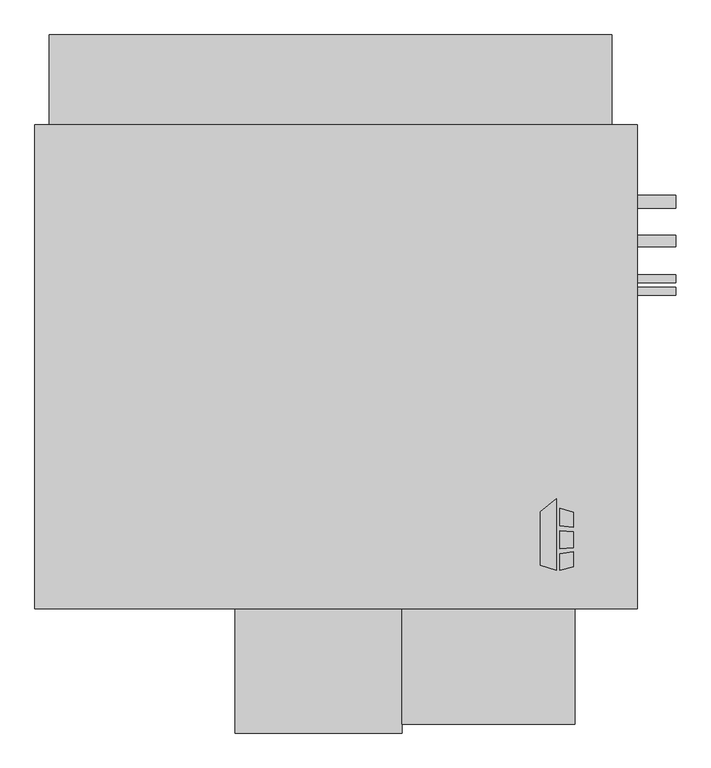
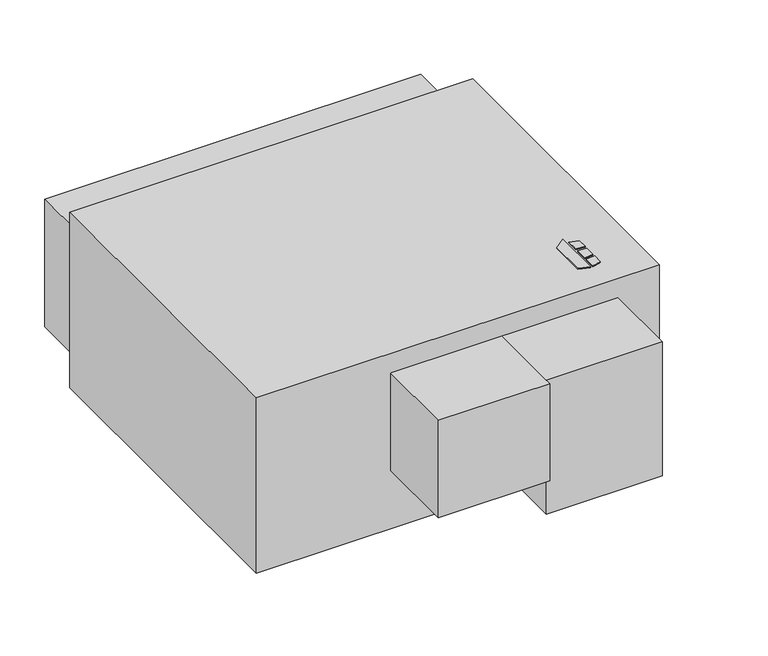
"""IFC4 building model written with IfcOpenShell, lengths in millimetres: proxy geometry, Horizontal_Direct_Drive_Blower_Coil_Unit_-_HDY_-_IEC_-_4-Pipe_RH_2022 : Size 16 - 460v/60Hz/3Ph - 6/2 Coil."""

from ifc_helpers import new_model, si_unit, point, frame, frame_2d, origin, origin_with_axes, place, context, project, spatial, polyline, circle_curve, trimmed, segment, composite_curve, outline, extrude, source, transform, mapped, element, save


def mechanical_equipment_002d5dee(model_context):
    return source(origin(), model_context, "Body", "SweptSolid", [
        extrude(outline(polyline([(-65.3980239, -274.0078476), (-32.8397272, -248.5705184), (-32.8397272, -390.525), (-65.3980239, -380.3054201), (-65.3980239, -274.0078476)])), origin_with_axes(), (0.0, 0.0, 1.0), 3.175),
        extrude(outline(polyline([(-26.0813942, -301.879852), (-26.0813942, -267.3999379), (0.0, -275.5865115), (0.0, -305.0822446), (-26.0813942, -301.879852)])), origin_with_axes(), (0.0, 0.0, 1.0), 3.175),
        extrude(outline(polyline([(0.0, -383.5365115), (-26.0813942, -390.525), (-26.0813942, -357.3036996), (0.0, -353.7618564), (0.0, -383.5365115)])), origin_with_axes(), (0.0, 0.0, 1.0), 3.175),
        extrude(outline(polyline([(0.0, -314.1638277), (0.0, -345.413983), (-26.0813942, -348.155248), (-26.0813942, -312.2975378), (0.0, -314.1638277)])), origin_with_axes(), (0.0, 0.0, 1.0), 3.175),
        extrude(outline(polyline([(127.0, 492.125), (127.0, -466.725), (-1066.8, -466.725), (-1066.8, 492.125), (127.0, 492.125)])), frame((0.0, 0.0, -549.2558174), z_axis=(0.0, 0.0, 1.0), x_axis=(1.0, 0.0, 0.0)), (0.0, 0.0, 1.0), 549.2558174),
        extrude(outline(polyline([(3.175, -695.325), (-339.725, -695.325), (-339.725, -466.725), (3.175, -466.725), (3.175, -695.325)])), frame((0.0, 0.0, -479.4058174), z_axis=(0.0, 0.0, 1.0), x_axis=(1.0, 0.0, 0.0)), (0.0, 0.0, 1.0), 419.1),
        extrude(outline(composite_curve([segment(trimmed(circle_curve(frame_2d((339.725, -180.7500418)), 12.7), [point((352.425, -180.7500418))], [point((327.025, -180.7500418))], False, "CARTESIAN"), True, "CONTINUOUS"), segment(trimmed(circle_curve(frame_2d((339.725, -180.7500418)), 12.7), [point((327.025, -180.7500418))], [point((352.425, -180.7500418))], False, "CARTESIAN"), True, "CONTINUOUS")], self_intersect=False)), frame((127.0, 0.0, 0.0), z_axis=(1.0, 0.0, 0.0), x_axis=(0.0, 1.0, 0.0)), (0.0, 0.0, 1.0), 76.2),
        extrude(outline(composite_curve([segment(trimmed(circle_curve(frame_2d((339.725, -422.2558174)), 12.7), [point((352.425, -422.2558174))], [point((327.025, -422.2558174))], False, "CARTESIAN"), True, "CONTINUOUS"), segment(trimmed(circle_curve(frame_2d((339.725, -422.2558174)), 12.7), [point((327.025, -422.2558174))], [point((352.425, -422.2558174))], False, "CARTESIAN"), True, "CONTINUOUS")], self_intersect=False)), frame((127.0, 0.0, 0.0), z_axis=(1.0, 0.0, 0.0), x_axis=(0.0, 1.0, 0.0)), (0.0, 0.0, 1.0), 76.2),
        extrude(outline(composite_curve([segment(trimmed(circle_curve(frame_2d((261.7604089, -504.8058174)), 11.1125), [point((272.8729089, -504.8058174))], [point((250.6479089, -504.8058174))], False, "CARTESIAN"), True, "CONTINUOUS"), segment(trimmed(circle_curve(frame_2d((261.7604089, -504.8058174)), 11.1125), [point((250.6479089, -504.8058174))], [point((272.8729089, -504.8058174))], False, "CARTESIAN"), True, "CONTINUOUS")], self_intersect=False)), frame((127.0, 0.0, 0.0), z_axis=(1.0, 0.0, 0.0), x_axis=(0.0, 1.0, 0.0)), (0.0, 0.0, 1.0), 76.2),
        extrude(outline(composite_curve([segment(trimmed(circle_curve(frame_2d((187.325, -231.7558174)), 7.9375), [point((195.2625, -231.7558174))], [point((179.3875, -231.7558174))], False, "CARTESIAN"), True, "CONTINUOUS"), segment(trimmed(circle_curve(frame_2d((187.325, -231.7558174)), 7.9375), [point((179.3875, -231.7558174))], [point((195.2625, -231.7558174))], False, "CARTESIAN"), True, "CONTINUOUS")], self_intersect=False)), frame((127.0, 0.0, 0.0), z_axis=(1.0, 0.0, 0.0), x_axis=(0.0, 1.0, 0.0)), (0.0, 0.0, 1.0), 76.2),
        extrude(outline(composite_curve([segment(trimmed(circle_curve(frame_2d((161.925, -371.4558174)), 7.9375), [point((169.8625, -371.4558174))], [point((153.9875, -371.4558174))], False, "CARTESIAN"), True, "CONTINUOUS"), segment(trimmed(circle_curve(frame_2d((161.925, -371.4558174)), 7.9375), [point((153.9875, -371.4558174))], [point((169.8625, -371.4558174))], False, "CARTESIAN"), True, "CONTINUOUS")], self_intersect=False)), frame((127.0, 0.0, 0.0), z_axis=(1.0, 0.0, 0.0), x_axis=(0.0, 1.0, 0.0)), (0.0, 0.0, 1.0), 76.2),
        extrude(outline(polyline([(-1038.225, 669.925), (76.2, 669.925), (76.2, 492.125), (-1038.225, 492.125), (-1038.225, 669.925)])), frame((0.0, 0.0, -476.2308174), z_axis=(0.0, 0.0, 1.0), x_axis=(1.0, 0.0, 0.0)), (0.0, 0.0, 1.0), 400.05),
        extrude(outline(polyline([(-339.725, -712.7875), (-669.925, -712.7875), (-669.925, -466.725), (-339.725, -466.725), (-339.725, -712.7875)])), frame((0.0, 0.0, -365.1058174), z_axis=(0.0, 0.0, 1.0), x_axis=(1.0, 0.0, 0.0)), (0.0, 0.0, 1.0), 304.8),
    ])


if __name__ == "__main__":
    model = new_model("IFC4")
    model_context = context("Model", 3, world=origin())
    ifc_project = project(units=[si_unit("LENGTHUNIT", "METRE", prefix="MILLI")], contexts=[model_context])
    site = spatial("IfcSite", under=ifc_project)
    building = spatial("IfcBuilding", under=site)
    placement = place(None, origin())
    mechanical_equipment_shape = mechanical_equipment_002d5dee(model_context)
    element("IfcBuildingElementProxy", 1, Name="Horizontal_Direct_Drive_Blower_Coil_Unit_-_HDY_-_IEC_-_4-Pipe_RH_2022 : Size 16 - 460v/60Hz/3Ph - 6/2 Coil", ObjectType="Horizontal_Direct_Drive_Blower_Coil_Unit_-_HDY_-_IEC_-_4-Pipe_RH_2022 : Size 16 - 460v/60Hz/3Ph - 6/2 Coil", at=placement, inside=building, context=model_context, shape_type="MappedRepresentation", body=[
        mapped(mechanical_equipment_shape, transform((0.0, 0.0, 0.0), x_axis=(1.0, 0.0, 0.0), y_axis=(0.0, 1.0, 0.0), z_axis=(0.0, 0.0, 1.0))),
    ])
    save(model, "model.ifc")
